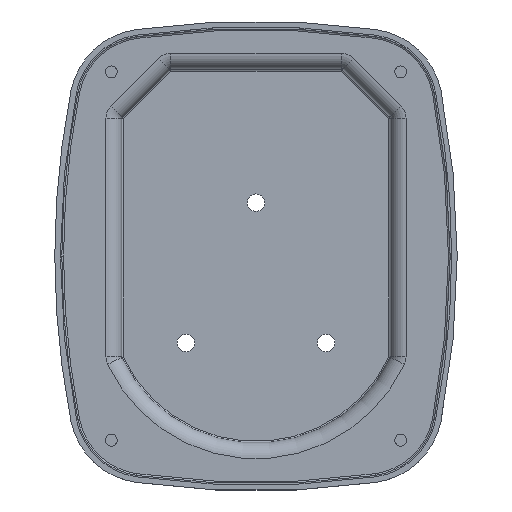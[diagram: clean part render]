
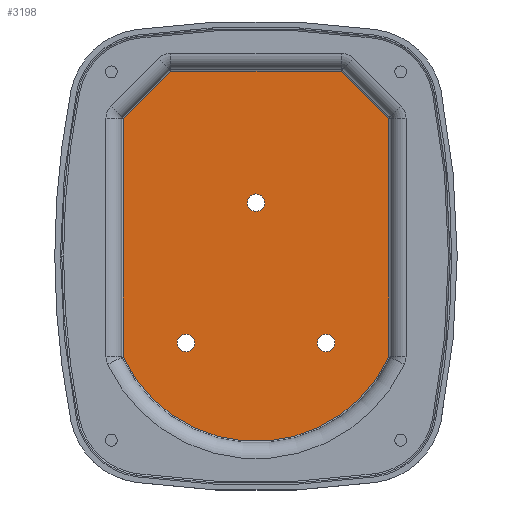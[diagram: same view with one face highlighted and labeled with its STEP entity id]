
A CAD part, top view. The second image highlights one B-rep face of the part: STEP entity #3198.
In plain terms, the highlighted planar face has unit normal (0, 0, 1).
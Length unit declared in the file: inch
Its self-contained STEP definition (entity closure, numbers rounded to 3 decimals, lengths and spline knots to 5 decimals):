
#15 = DIRECTION ( 'NONE',  ( -0.707, -0.707, 0. ) ) ;
#113 = VERTEX_POINT ( 'NONE', #2871 ) ;
#122 = FACE_BOUND ( 'NONE', #3435, .T. ) ;
#222 = VERTEX_POINT ( 'NONE', #984 ) ;
#302 = CIRCLE ( 'NONE', #2232, 0.125 ) ;
#311 = EDGE_CURVE ( 'NONE', #222, #1028, #3981, .T. ) ;
#368 = EDGE_CURVE ( 'NONE', #3072, #1379, #3274, .T. ) ;
#438 = LINE ( 'NONE', #2022, #2990 ) ;
#638 = CARTESIAN_POINT ( 'NONE',  ( 0., -0.55338, -2.375 ) ) ;
#650 = EDGE_CURVE ( 'NONE', #113, #1240, #1569, .T. ) ;
#675 = EDGE_CURVE ( 'NONE', #3553, #3360, #1206, .T. ) ;
#693 = DIRECTION ( 'NONE',  ( 0., 0., 1. ) ) ;
#694 = FACE_OUTER_BOUND ( 'NONE', #907, .T. ) ;
#710 = DIRECTION ( 'NONE',  ( 0., 0., 1. ) ) ;
#755 = EDGE_CURVE ( 'NONE', #1198, #3072, #1878, .T. ) ;
#858 = EDGE_LOOP ( 'NONE', ( #1995, #1295 ) ) ;
#867 = CARTESIAN_POINT ( 'NONE',  ( -0.125, 0.765, -2.375 ) ) ;
#875 = CARTESIAN_POINT ( 'NONE',  ( 1.89, -0.55338, -2.375 ) ) ;
#889 = DIRECTION ( 'NONE',  ( 0., 1., 0. ) ) ;
#907 = EDGE_LOOP ( 'NONE', ( #3531, #3806, #1130, #3674, #957, #4067 ) ) ;
#957 = ORIENTED_EDGE ( 'NONE', *, *, #1414, .T. ) ;
#984 = CARTESIAN_POINT ( 'NONE',  ( -1.125, -1.235, -2.375 ) ) ;
#1028 = VERTEX_POINT ( 'NONE', #1620 ) ;
#1070 = VERTEX_POINT ( 'NONE', #3254 ) ;
#1130 = ORIENTED_EDGE ( 'NONE', *, *, #4200, .T. ) ;
#1132 = ORIENTED_EDGE ( 'NONE', *, *, #311, .F. ) ;
#1198 = VERTEX_POINT ( 'NONE', #3172 ) ;
#1206 = CIRCLE ( 'NONE', #4071, 0.125 ) ;
#1221 = CARTESIAN_POINT ( 'NONE',  ( -1.89, -1.43763, -2.375 ) ) ;
#1240 = VERTEX_POINT ( 'NONE', #867 ) ;
#1258 = LINE ( 'NONE', #1918, #2304 ) ;
#1295 = ORIENTED_EDGE ( 'NONE', *, *, #675, .F. ) ;
#1359 = DIRECTION ( 'NONE',  ( 1., 0., 0. ) ) ;
#1365 = CARTESIAN_POINT ( 'NONE',  ( 1.125, -1.235, -2.375 ) ) ;
#1379 = VERTEX_POINT ( 'NONE', #3581 ) ;
#1414 = EDGE_CURVE ( 'NONE', #2467, #1198, #3231, .T. ) ;
#1447 = VECTOR ( 'NONE', #15, 39.37008 ) ;
#1449 = DIRECTION ( 'NONE',  ( 1., 0., 0. ) ) ;
#1500 = DIRECTION ( 'NONE',  ( 1., 0., 0. ) ) ;
#1513 = CARTESIAN_POINT ( 'NONE',  ( 0., 0.765, -2.375 ) ) ;
#1547 = DIRECTION ( 'NONE',  ( 0., 0., 1. ) ) ;
#1569 = CIRCLE ( 'NONE', #2383, 0.125 ) ;
#1607 = CIRCLE ( 'NONE', #2672, 0.125 ) ;
#1608 = AXIS2_PLACEMENT_3D ( 'NONE', #4219, #2675, #3937 ) ;
#1620 = CARTESIAN_POINT ( 'NONE',  ( -0.875, -1.235, -2.375 ) ) ;
#1664 = ORIENTED_EDGE ( 'NONE', *, *, #3430, .F. ) ;
#1707 = LINE ( 'NONE', #3008, #1447 ) ;
#1786 = CARTESIAN_POINT ( 'NONE',  ( 0., 0.765, -2.375 ) ) ;
#1797 = EDGE_CURVE ( 'NONE', #1379, #1070, #1258, .T. ) ;
#1878 = LINE ( 'NONE', #875, #2400 ) ;
#1918 = CARTESIAN_POINT ( 'NONE',  ( 0., 2.64, -2.375 ) ) ;
#1966 = DIRECTION ( 'NONE',  ( 0., 0., 1. ) ) ;
#1976 = DIRECTION ( 'NONE',  ( 0., -1., 0. ) ) ;
#1995 = ORIENTED_EDGE ( 'NONE', *, *, #3692, .F. ) ;
#2022 = CARTESIAN_POINT ( 'NONE',  ( -1.89, -0.55338, -2.375 ) ) ;
#2061 = CARTESIAN_POINT ( 'NONE',  ( -1., -1.235, -2.375 ) ) ;
#2106 = ORIENTED_EDGE ( 'NONE', *, *, #650, .F. ) ;
#2157 = DIRECTION ( 'NONE',  ( 0., 0., 1. ) ) ;
#2232 = AXIS2_PLACEMENT_3D ( 'NONE', #2692, #693, #3077 ) ;
#2283 = PLANE ( 'NONE',  #4187 ) ;
#2304 = VECTOR ( 'NONE', #4231, 39.37008 ) ;
#2383 = AXIS2_PLACEMENT_3D ( 'NONE', #1513, #2157, #1500 ) ;
#2385 = CARTESIAN_POINT ( 'NONE',  ( -1., -1.235, -2.375 ) ) ;
#2400 = VECTOR ( 'NONE', #889, 39.37008 ) ;
#2467 = VERTEX_POINT ( 'NONE', #1221 ) ;
#2529 = CARTESIAN_POINT ( 'NONE',  ( 1., -1.235, -2.375 ) ) ;
#2591 = VECTOR ( 'NONE', #3364, 39.37008 ) ;
#2612 = EDGE_CURVE ( 'NONE', #2688, #2467, #438, .T. ) ;
#2672 = AXIS2_PLACEMENT_3D ( 'NONE', #2385, #3075, #3720 ) ;
#2675 = DIRECTION ( 'NONE',  ( 0., 0., 1. ) ) ;
#2688 = VERTEX_POINT ( 'NONE', #3027 ) ;
#2690 = CARTESIAN_POINT ( 'NONE',  ( 2.2033, 1.64992, -2.375 ) ) ;
#2692 = CARTESIAN_POINT ( 'NONE',  ( 1., -1.235, -2.375 ) ) ;
#2746 = EDGE_LOOP ( 'NONE', ( #2106, #1664 ) ) ;
#2818 = DIRECTION ( 'NONE',  ( 1., 0., 0. ) ) ;
#2871 = CARTESIAN_POINT ( 'NONE',  ( 0.125, 0.765, -2.375 ) ) ;
#2990 = VECTOR ( 'NONE', #1976, 39.37008 ) ;
#3008 = CARTESIAN_POINT ( 'NONE',  ( -2.2033, 1.64992, -2.375 ) ) ;
#3027 = CARTESIAN_POINT ( 'NONE',  ( -1.89, 1.96322, -2.375 ) ) ;
#3072 = VERTEX_POINT ( 'NONE', #3273 ) ;
#3075 = DIRECTION ( 'NONE',  ( 0., 0., 1. ) ) ;
#3077 = DIRECTION ( 'NONE',  ( 1., 0., 0. ) ) ;
#3172 = CARTESIAN_POINT ( 'NONE',  ( 1.89, -1.43763, -2.375 ) ) ;
#3198 = ADVANCED_FACE ( 'NONE', ( #122, #4215, #3591, #694 ), #2283, .T. ) ;
#3199 = CARTESIAN_POINT ( 'NONE',  ( 0.875, -1.235, -2.375 ) ) ;
#3231 = CIRCLE ( 'NONE', #1608, 2.08663 ) ;
#3254 = CARTESIAN_POINT ( 'NONE',  ( -1.21322, 2.64, -2.375 ) ) ;
#3273 = CARTESIAN_POINT ( 'NONE',  ( 1.89, 1.96322, -2.375 ) ) ;
#3274 = LINE ( 'NONE', #2690, #2591 ) ;
#3284 = DIRECTION ( 'NONE',  ( -1., 0., 0. ) ) ;
#3360 = VERTEX_POINT ( 'NONE', #1365 ) ;
#3364 = DIRECTION ( 'NONE',  ( -0.707, 0.707, 0. ) ) ;
#3430 = EDGE_CURVE ( 'NONE', #1240, #113, #3922, .T. ) ;
#3435 = EDGE_LOOP ( 'NONE', ( #3960, #1132 ) ) ;
#3476 = DIRECTION ( 'NONE',  ( 0., 0., 1. ) ) ;
#3531 = ORIENTED_EDGE ( 'NONE', *, *, #368, .T. ) ;
#3553 = VERTEX_POINT ( 'NONE', #3199 ) ;
#3581 = CARTESIAN_POINT ( 'NONE',  ( 1.21322, 2.64, -2.375 ) ) ;
#3591 = FACE_BOUND ( 'NONE', #2746, .T. ) ;
#3661 = AXIS2_PLACEMENT_3D ( 'NONE', #1786, #3476, #1449 ) ;
#3674 = ORIENTED_EDGE ( 'NONE', *, *, #2612, .T. ) ;
#3692 = EDGE_CURVE ( 'NONE', #3360, #3553, #302, .T. ) ;
#3720 = DIRECTION ( 'NONE',  ( 1., 0., 0. ) ) ;
#3806 = ORIENTED_EDGE ( 'NONE', *, *, #1797, .T. ) ;
#3922 = CIRCLE ( 'NONE', #3661, 0.125 ) ;
#3937 = DIRECTION ( 'NONE',  ( -1., 0., 0. ) ) ;
#3960 = ORIENTED_EDGE ( 'NONE', *, *, #4229, .F. ) ;
#3981 = CIRCLE ( 'NONE', #4234, 0.125 ) ;
#4067 = ORIENTED_EDGE ( 'NONE', *, *, #755, .T. ) ;
#4071 = AXIS2_PLACEMENT_3D ( 'NONE', #2529, #1547, #2818 ) ;
#4187 = AXIS2_PLACEMENT_3D ( 'NONE', #638, #1966, #3284 ) ;
#4200 = EDGE_CURVE ( 'NONE', #1070, #2688, #1707, .T. ) ;
#4215 = FACE_BOUND ( 'NONE', #858, .T. ) ;
#4219 = CARTESIAN_POINT ( 'NONE',  ( 0., -0.55338, -2.375 ) ) ;
#4229 = EDGE_CURVE ( 'NONE', #1028, #222, #1607, .T. ) ;
#4231 = DIRECTION ( 'NONE',  ( -1., 0., 0. ) ) ;
#4234 = AXIS2_PLACEMENT_3D ( 'NONE', #2061, #710, #1359 ) ;
